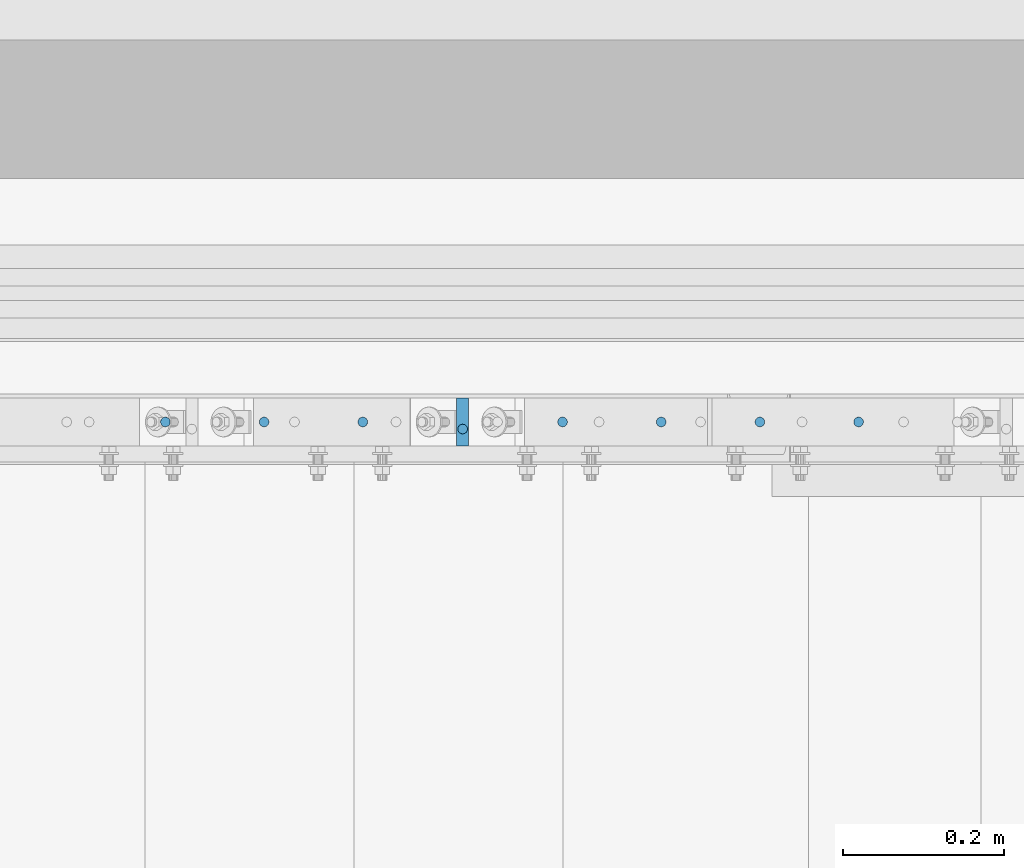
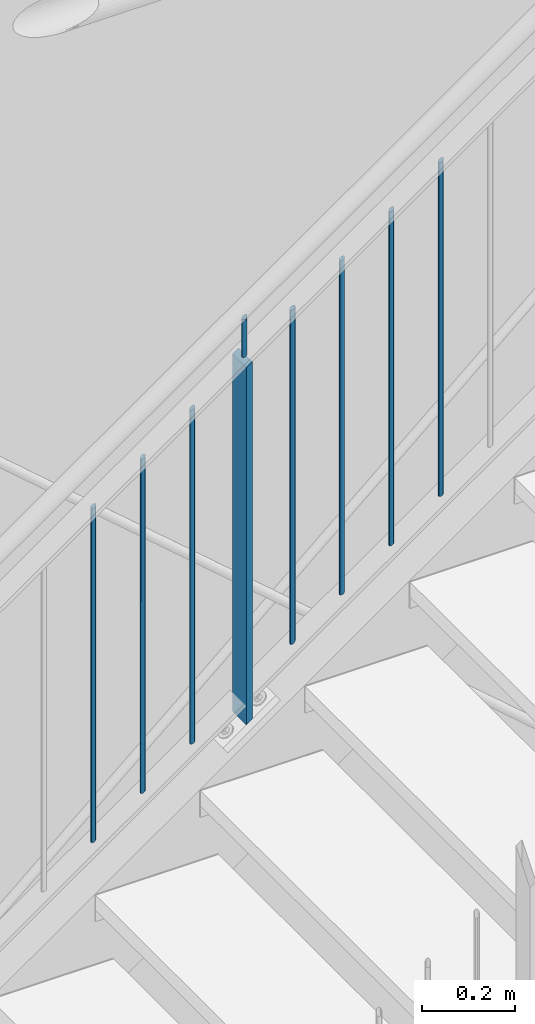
# One storey, part 79 of 825: 9 columns.
"""IFC2X3 building model written with IfcOpenShell, lengths in millimetres."""

from ifc_helpers import new_model, entity, si_unit, converted_unit, frame, origin, origin_with_axes, origin_2d, place, context, project, spatial, rectangle, circle, extrude, clip, halfspace, material, element, save


model = new_model("IFC2X3")

# Units and contexts
model_context = context("Model", 3, precision=1e-09, world=origin_with_axes())
ifc_project = project(units=[si_unit("LENGTHUNIT", "METRE", prefix="MILLI"), si_unit("AREAUNIT", "SQUARE_METRE"), si_unit("VOLUMEUNIT", "CUBIC_METRE"), converted_unit("PLANEANGLEUNIT", "DEGREE", entity("IfcPlaneAngleMeasure", 0.01745329), si_unit("PLANEANGLEUNIT", "RADIAN"), dimensions=[0, 0, 0, 0, 0, 0, 0])], contexts=[model_context])

# Site, building, storey
site_placement = place(None, origin_with_axes())
site = spatial("IfcSite", under=ifc_project, at=site_placement, Name="Cnopf'sche Kinderklinik", CompositionType="ELEMENT")
building_placement = place(site_placement, origin_with_axes())
building = spatial("IfcBuilding", under=site, at=building_placement, Name="Struktur 1", CompositionType="ELEMENT")
storey_placement = place(building_placement, origin_with_axes())
storey = spatial("IfcBuildingStorey", under=building, at=storey_placement, Name="Default Storey", CompositionType="ELEMENT", Elevation=0.0)

# Columns
ifc_material = material(Name="S235JR")
column_1_placement = place(None, frame((6671.713688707, 7356.736971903, 6078.30871443), z_axis=(0.0, 0.0, 1.0), x_axis=(1.0, 0.0, 0.0)))
element("IfcColumn", 1, at=column_1_placement, inside=storey, material=ifc_material, Name="Railing_Post_Stair#2", ObjectType="Railing_Post_Stair#2", context=model_context, shape_type="Clipping", body=[
    clip(clip(extrude(rectangle(XDim=15.0, YDim=60.0, at=origin_2d()), origin(), (0.0, 0.0, -1.0), 1013.014378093), halfspace(frame((-6865.856442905, -7356.736971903, -5802.159792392), z_axis=(-0.575128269, 0.0, 0.818063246), x_axis=(0.0, -1.0, 0.0)), True)), halfspace(frame((-7306.900023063, -7356.736971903, -5174.818794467), z_axis=(0.575128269, 0.0, -0.818063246), x_axis=(0.0, 1.0, 0.0)), True)),
])
column_2_placement = place(None, frame((6301.963641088, 7356.736971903, 5790.932747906), z_axis=(0.0, 0.0, 1.0), x_axis=(1.0, 0.0, 0.0)))
element("IfcColumn", 2, at=column_2_placement, inside=storey, material=ifc_material, Name="Railing_Picket_Stair#11", ObjectType="Railing_Picket_Stair#11", context=model_context, shape_type="Clipping", body=[
    clip(clip(extrude(circle(Radius=6.0, at=origin_2d()), origin(), (0.0, 0.0, -1.0), 897.037988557), halfspace(frame((-6524.862807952, -7356.736971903, -5473.880664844), z_axis=(-0.575128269, 0.0, 0.818063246), x_axis=(0.0, -1.0, 0.0)), True)), halfspace(frame((-6937.149975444, -7356.736971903, -4887.442827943), z_axis=(0.575128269, 0.0, -0.818063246), x_axis=(0.0, 1.0, 0.0)), True)),
])
column_3_placement = place(None, frame((6424.713664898, 7356.736971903, 5877.230487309), z_axis=(0.0, 0.0, 1.0), x_axis=(1.0, 0.0, 0.0)))
element("IfcColumn", 3, at=column_3_placement, inside=storey, material=ifc_material, Name="Railing_Picket_Stair#12", ObjectType="Railing_Picket_Stair#12", context=model_context, shape_type="Clipping", body=[
    clip(clip(extrude(circle(Radius=6.0, at=origin_2d()), origin(), (0.0, 0.0, -1.0), 897.037988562), halfspace(frame((-6647.612831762, -7356.736971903, -5560.178404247), z_axis=(-0.575128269, 0.0, 0.818063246), x_axis=(0.0, -1.0, 0.0)), True)), halfspace(frame((-7059.899999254, -7356.736971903, -4973.740567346), z_axis=(0.575128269, 0.0, -0.818063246), x_axis=(0.0, 1.0, 0.0)), True)),
])
column_4_placement = place(None, frame((6547.463688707, 7356.736971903, 5963.528226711), z_axis=(0.0, 0.0, 1.0), x_axis=(1.0, 0.0, 0.0)))
element("IfcColumn", 4, at=column_4_placement, inside=storey, material=ifc_material, Name="Railing_Picket_Stair#13", ObjectType="Railing_Picket_Stair#13", context=model_context, shape_type="Clipping", body=[
    clip(clip(extrude(circle(Radius=6.0, at=origin_2d()), origin(), (0.0, 0.0, -1.0), 897.037988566), halfspace(frame((-6770.362855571, -7356.736971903, -5646.476143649), z_axis=(-0.575128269, 0.0, 0.818063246), x_axis=(0.0, -1.0, 0.0)), True)), halfspace(frame((-7182.650023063, -7356.736971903, -5060.038306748), z_axis=(0.575128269, 0.0, -0.818063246), x_axis=(0.0, 1.0, 0.0)), True)),
])
column_5_placement = place(None, frame((6795.963688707, 7356.736971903, 6138.23278135), z_axis=(0.0, 0.0, 1.0), x_axis=(1.0, 0.0, 0.0)))
element("IfcColumn", 5, at=column_5_placement, inside=storey, material=ifc_material, Name="Railing_Picket_Stair#14", ObjectType="Railing_Picket_Stair#14", context=model_context, shape_type="Clipping", body=[
    clip(clip(extrude(circle(Radius=6.0, at=origin_2d()), origin(), (0.0, 0.0, -1.0), 897.037988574), halfspace(frame((-7018.862855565, -7356.736971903, -5821.180698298), z_axis=(-0.575128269, 0.0, 0.818063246), x_axis=(0.0, -1.0, 0.0)), True)), halfspace(frame((-7431.150023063, -7356.736971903, -5234.742861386), z_axis=(0.575128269, 0.0, -0.818063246), x_axis=(0.0, 1.0, 0.0)), True)),
])
column_6_placement = place(None, frame((6918.713712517, 7356.736971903, 6224.530520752), z_axis=(0.0, 0.0, 1.0), x_axis=(1.0, 0.0, 0.0)))
element("IfcColumn", 6, at=column_6_placement, inside=storey, material=ifc_material, Name="Railing_Picket_Stair#15", ObjectType="Railing_Picket_Stair#15", context=model_context, shape_type="Clipping", body=[
    clip(clip(extrude(circle(Radius=6.0, at=origin_2d()), origin(), (0.0, 0.0, -1.0), 897.037988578), halfspace(frame((-7141.612879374, -7356.736971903, -5907.4784377), z_axis=(-0.575128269, 0.0, 0.818063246), x_axis=(0.0, -1.0, 0.0)), True)), halfspace(frame((-7553.900046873, -7356.736971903, -5321.040600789), z_axis=(0.575128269, 0.0, -0.818063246), x_axis=(0.0, 1.0, 0.0)), True)),
])
column_7_placement = place(None, frame((7041.463736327, 7356.736971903, 6310.828260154), z_axis=(0.0, 0.0, 1.0), x_axis=(1.0, 0.0, 0.0)))
element("IfcColumn", 7, at=column_7_placement, inside=storey, material=ifc_material, Name="Railing_Picket_Stair#16", ObjectType="Railing_Picket_Stair#16", context=model_context, shape_type="Clipping", body=[
    clip(clip(extrude(circle(Radius=6.0, at=origin_2d()), origin(), (0.0, 0.0, -1.0), 897.037988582), halfspace(frame((-7264.362903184, -7356.736971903, -5993.776177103), z_axis=(-0.575128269, 0.0, 0.818063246), x_axis=(0.0, -1.0, 0.0)), True)), halfspace(frame((-7676.650070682, -7356.736971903, -5407.338340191), z_axis=(0.575128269, 0.0, -0.818063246), x_axis=(0.0, 1.0, 0.0)), True)),
])
column_8_placement = place(None, frame((7164.213760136, 7356.736971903, 6397.125999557), z_axis=(0.0, 0.0, 1.0), x_axis=(1.0, 0.0, 0.0)))
element("IfcColumn", 8, at=column_8_placement, inside=storey, material=ifc_material, Name="Railing_Picket_Stair#17", ObjectType="Railing_Picket_Stair#17", context=model_context, shape_type="Clipping", body=[
    clip(clip(extrude(circle(Radius=6.0, at=origin_2d()), origin(), (0.0, 0.0, -1.0), 897.037988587), halfspace(frame((-7387.112926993, -7356.736971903, -6080.073916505), z_axis=(-0.575128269, 0.0, 0.818063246), x_axis=(0.0, -1.0, 0.0)), True)), halfspace(frame((-7799.400094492, -7356.736971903, -5493.636079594), z_axis=(0.575128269, 0.0, -0.818063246), x_axis=(0.0, 1.0, 0.0)), True)),
])
column_9_placement = place(None, frame((6671.713688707, 7347.936971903, 6163.10449778), z_axis=(0.0, 0.0, 1.0), x_axis=(0.0, -1.0, 0.0)))
element("IfcColumn", 9, at=column_9_placement, inside=storey, material=ifc_material, Name="Bar#2", ObjectType="Bar#2", context=model_context, shape_type="Clipping", body=[
    clip(clip(extrude(circle(Radius=6.0, at=origin_2d()), origin(), (0.0, 0.0, -1.0), 120.744805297), halfspace(frame((7347.936971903, -7312.652456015, -5251.432309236), z_axis=(0.0, -0.575128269, 0.818063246), x_axis=(1.0, 0.0, 0.0)), True)), halfspace(frame((7347.936971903, -7359.70043563, -5184.511198), z_axis=(0.0, 0.575128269, -0.818063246), x_axis=(-1.0, 0.0, 0.0)), True)),
])

save(model, "model.ifc")
